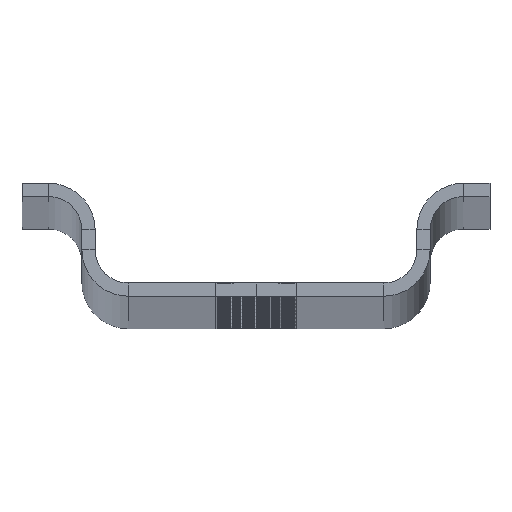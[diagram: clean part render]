
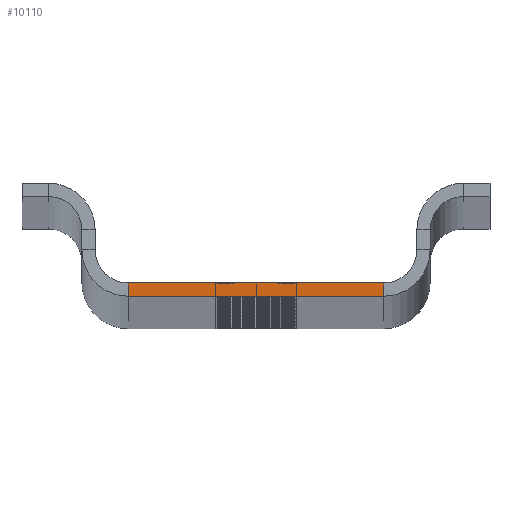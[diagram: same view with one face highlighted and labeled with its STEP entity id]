
A CAD part, top view. The second image highlights one B-rep face of the part: STEP entity #10110.
In plain terms, the highlighted planar face has unit normal (0, 0, 1).
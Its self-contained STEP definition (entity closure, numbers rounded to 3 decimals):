
#242 = VECTOR ( 'NONE', #5561, 1000. ) ;
#490 = CARTESIAN_POINT ( 'NONE',  ( -12.1, 0., 1400. ) ) ;
#1445 = LINE ( 'NONE', #6643, #7549 ) ;
#1471 = CARTESIAN_POINT ( 'NONE',  ( -12.1, -1., 1400. ) ) ;
#2277 = CARTESIAN_POINT ( 'NONE',  ( 9.6, 0., 1400. ) ) ;
#2411 = FACE_OUTER_BOUND ( 'NONE', #5821, .T. ) ;
#2624 = CARTESIAN_POINT ( 'NONE',  ( -9.6, -1., 1400. ) ) ;
#2991 = VERTEX_POINT ( 'NONE', #2624 ) ;
#3006 = DIRECTION ( 'NONE',  ( 0., -1., 0. ) ) ;
#3172 = VERTEX_POINT ( 'NONE', #5729 ) ;
#3776 = LINE ( 'NONE', #1471, #9755 ) ;
#4121 = EDGE_CURVE ( 'NONE', #7741, #4196, #7411, .T. ) ;
#4196 = VERTEX_POINT ( 'NONE', #8201 ) ;
#4683 = DIRECTION ( 'NONE',  ( 0., 0., 1. ) ) ;
#4702 = CARTESIAN_POINT ( 'NONE',  ( -9.6, 0., 1400. ) ) ;
#5096 = ORIENTED_EDGE ( 'NONE', *, *, #4121, .T. ) ;
#5561 = DIRECTION ( 'NONE',  ( -1., 0., 0. ) ) ;
#5691 = ORIENTED_EDGE ( 'NONE', *, *, #6165, .T. ) ;
#5729 = CARTESIAN_POINT ( 'NONE',  ( 9.6, -1., 1400. ) ) ;
#5821 = EDGE_LOOP ( 'NONE', ( #5096, #7449, #7635, #5691 ) ) ;
#6090 = EDGE_CURVE ( 'NONE', #3172, #2991, #3776, .T. ) ;
#6165 = EDGE_CURVE ( 'NONE', #3172, #7741, #1445, .T. ) ;
#6458 = EDGE_CURVE ( 'NONE', #4196, #2991, #10293, .T. ) ;
#6643 = CARTESIAN_POINT ( 'NONE',  ( 9.6, -1., 1400. ) ) ;
#6836 = AXIS2_PLACEMENT_3D ( 'NONE', #8148, #4683, #7224 ) ;
#7224 = DIRECTION ( 'NONE',  ( 1., 0., 0. ) ) ;
#7411 = LINE ( 'NONE', #490, #242 ) ;
#7449 = ORIENTED_EDGE ( 'NONE', *, *, #6458, .T. ) ;
#7549 = VECTOR ( 'NONE', #9161, 1000. ) ;
#7635 = ORIENTED_EDGE ( 'NONE', *, *, #6090, .F. ) ;
#7741 = VERTEX_POINT ( 'NONE', #2277 ) ;
#8148 = CARTESIAN_POINT ( 'NONE',  ( -13.1, 2.5, 1400. ) ) ;
#8201 = CARTESIAN_POINT ( 'NONE',  ( -9.6, 0., 1400. ) ) ;
#9161 = DIRECTION ( 'NONE',  ( 0., 1., 0. ) ) ;
#9755 = VECTOR ( 'NONE', #9848, 1000. ) ;
#9848 = DIRECTION ( 'NONE',  ( -1., 0., 0. ) ) ;
#10110 = ADVANCED_FACE ( 'NONE', ( #2411 ), #10446, .T. ) ;
#10293 = LINE ( 'NONE', #4702, #10674 ) ;
#10446 = PLANE ( 'NONE',  #6836 ) ;
#10674 = VECTOR ( 'NONE', #3006, 1000. ) ;
